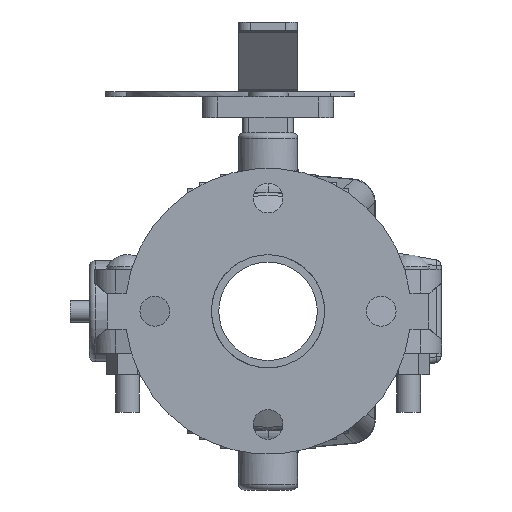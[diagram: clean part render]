
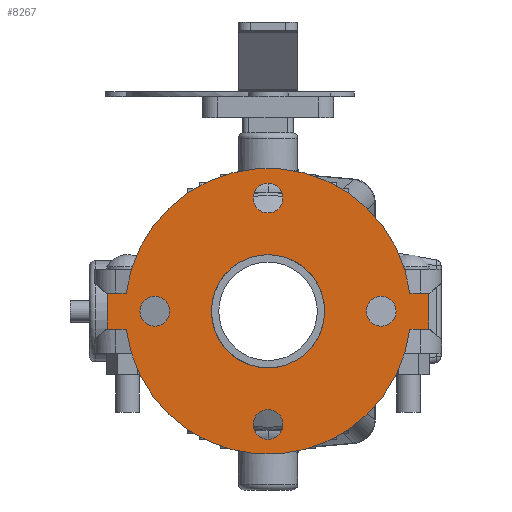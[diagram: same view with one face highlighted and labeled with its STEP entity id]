
A CAD part, front view. The second image highlights one B-rep face of the part: STEP entity #8267.
In plain terms, the highlighted planar face has unit normal (0, -1, 0) as drawn and (0, 0, -1) by its records, which use the part's own axes.
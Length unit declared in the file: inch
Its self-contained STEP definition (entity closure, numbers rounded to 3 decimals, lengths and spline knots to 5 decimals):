
#312=FACE_BOUND('',#1091,.T.);
#313=FACE_BOUND('',#1092,.T.);
#314=FACE_BOUND('',#1093,.T.);
#315=FACE_BOUND('',#1094,.T.);
#316=FACE_BOUND('',#1095,.T.);
#404=PLANE('',#8943);
#627=FACE_OUTER_BOUND('',#1090,.T.);
#1090=EDGE_LOOP('',(#5244,#5245,#5246,#5247,#5248,#5249,#5250,#5251));
#1091=EDGE_LOOP('',(#5252));
#1092=EDGE_LOOP('',(#5253));
#1093=EDGE_LOOP('',(#5254));
#1094=EDGE_LOOP('',(#5255));
#1095=EDGE_LOOP('',(#5256,#5257));
#1645=LINE('',#12442,#2220);
#1646=LINE('',#12444,#2221);
#1647=LINE('',#12446,#2222);
#1648=LINE('',#12450,#2223);
#1649=LINE('',#12452,#2224);
#1650=LINE('',#12453,#2225);
#2220=VECTOR('',#9934,0.3937);
#2221=VECTOR('',#9935,0.3937);
#2222=VECTOR('',#9936,0.3937);
#2223=VECTOR('',#9939,0.3937);
#2224=VECTOR('',#9940,0.3937);
#2225=VECTOR('',#9941,0.3937);
#2792=CIRCLE('',#8933,0.3125);
#2794=CIRCLE('',#8936,0.3125);
#2796=CIRCLE('',#8939,0.3125);
#2798=CIRCLE('',#8942,0.3125);
#2799=CIRCLE('',#8944,3.);
#2800=CIRCLE('',#8945,3.);
#2801=CIRCLE('',#8946,1.1875);
#2802=CIRCLE('',#8947,1.1875);
#3251=VERTEX_POINT('',#12416);
#3253=VERTEX_POINT('',#12422);
#3255=VERTEX_POINT('',#12428);
#3257=VERTEX_POINT('',#12434);
#3258=VERTEX_POINT('',#12438);
#3259=VERTEX_POINT('',#12439);
#3260=VERTEX_POINT('',#12441);
#3261=VERTEX_POINT('',#12443);
#3262=VERTEX_POINT('',#12445);
#3263=VERTEX_POINT('',#12447);
#3264=VERTEX_POINT('',#12449);
#3265=VERTEX_POINT('',#12451);
#3266=VERTEX_POINT('',#12454);
#3267=VERTEX_POINT('',#12455);
#4036=EDGE_CURVE('',#3251,#3251,#2792,.T.);
#4039=EDGE_CURVE('',#3253,#3253,#2794,.T.);
#4042=EDGE_CURVE('',#3255,#3255,#2796,.T.);
#4045=EDGE_CURVE('',#3257,#3257,#2798,.T.);
#4046=EDGE_CURVE('',#3258,#3259,#2799,.T.);
#4047=EDGE_CURVE('',#3259,#3260,#1645,.T.);
#4048=EDGE_CURVE('',#3260,#3261,#1646,.T.);
#4049=EDGE_CURVE('',#3261,#3262,#1647,.T.);
#4050=EDGE_CURVE('',#3262,#3263,#2800,.T.);
#4051=EDGE_CURVE('',#3263,#3264,#1648,.T.);
#4052=EDGE_CURVE('',#3264,#3265,#1649,.T.);
#4053=EDGE_CURVE('',#3265,#3258,#1650,.T.);
#4054=EDGE_CURVE('',#3266,#3267,#2801,.T.);
#4055=EDGE_CURVE('',#3267,#3266,#2802,.T.);
#5244=ORIENTED_EDGE('',*,*,#4046,.T.);
#5245=ORIENTED_EDGE('',*,*,#4047,.T.);
#5246=ORIENTED_EDGE('',*,*,#4048,.T.);
#5247=ORIENTED_EDGE('',*,*,#4049,.T.);
#5248=ORIENTED_EDGE('',*,*,#4050,.T.);
#5249=ORIENTED_EDGE('',*,*,#4051,.T.);
#5250=ORIENTED_EDGE('',*,*,#4052,.T.);
#5251=ORIENTED_EDGE('',*,*,#4053,.T.);
#5252=ORIENTED_EDGE('',*,*,#4036,.T.);
#5253=ORIENTED_EDGE('',*,*,#4039,.T.);
#5254=ORIENTED_EDGE('',*,*,#4042,.T.);
#5255=ORIENTED_EDGE('',*,*,#4045,.T.);
#5256=ORIENTED_EDGE('',*,*,#4054,.T.);
#5257=ORIENTED_EDGE('',*,*,#4055,.T.);
#8267=ADVANCED_FACE('',(#627,#312,#313,#314,#315,#316),#404,.T.);
#8933=AXIS2_PLACEMENT_3D('',#12418,#9907,#9908);
#8936=AXIS2_PLACEMENT_3D('',#12424,#9914,#9915);
#8939=AXIS2_PLACEMENT_3D('',#12430,#9921,#9922);
#8942=AXIS2_PLACEMENT_3D('',#12436,#9928,#9929);
#8943=AXIS2_PLACEMENT_3D('',#12437,#9930,#9931);
#8944=AXIS2_PLACEMENT_3D('',#12440,#9932,#9933);
#8945=AXIS2_PLACEMENT_3D('',#12448,#9937,#9938);
#8946=AXIS2_PLACEMENT_3D('',#12456,#9942,#9943);
#8947=AXIS2_PLACEMENT_3D('',#12457,#9944,#9945);
#9907=DIRECTION('center_axis',(0.,0.,1.));
#9908=DIRECTION('ref_axis',(0.,1.,0.));
#9914=DIRECTION('center_axis',(0.,0.,1.));
#9915=DIRECTION('ref_axis',(1.,0.,0.));
#9921=DIRECTION('center_axis',(0.,0.,1.));
#9922=DIRECTION('ref_axis',(0.,-1.,0.));
#9928=DIRECTION('center_axis',(0.,0.,1.));
#9929=DIRECTION('ref_axis',(-1.,0.,0.));
#9930=DIRECTION('center_axis',(0.,0.,-1.));
#9931=DIRECTION('ref_axis',(-1.,0.,0.));
#9932=DIRECTION('center_axis',(0.,0.,-1.));
#9933=DIRECTION('ref_axis',(-1.,0.,0.));
#9934=DIRECTION('',(0.,1.,0.));
#9935=DIRECTION('',(1.,0.,0.));
#9936=DIRECTION('',(0.,-1.,0.));
#9937=DIRECTION('center_axis',(0.,0.,-1.));
#9938=DIRECTION('ref_axis',(-1.,0.,0.));
#9939=DIRECTION('',(0.,-1.,0.));
#9940=DIRECTION('',(-1.,0.,0.));
#9941=DIRECTION('',(0.,1.,0.));
#9942=DIRECTION('center_axis',(0.,0.,1.));
#9943=DIRECTION('ref_axis',(-1.,0.,0.));
#9944=DIRECTION('center_axis',(0.,0.,1.));
#9945=DIRECTION('ref_axis',(-1.,0.,0.));
#12416=CARTESIAN_POINT('',(0.,2.0625,-0.375));
#12418=CARTESIAN_POINT('Origin',(0.,2.375,-0.375));
#12422=CARTESIAN_POINT('',(2.0625,0.,-0.375));
#12424=CARTESIAN_POINT('Origin',(2.375,0.,-0.375));
#12428=CARTESIAN_POINT('',(0.,-2.0625,-0.375));
#12430=CARTESIAN_POINT('Origin',(0.,-2.375,-0.375));
#12434=CARTESIAN_POINT('',(-2.0625,0.,-0.375));
#12436=CARTESIAN_POINT('Origin',(-2.375,0.,-0.375));
#12437=CARTESIAN_POINT('Origin',(0.,0.,-0.375));
#12438=CARTESIAN_POINT('',(-0.375,-2.97647,-0.375));
#12439=CARTESIAN_POINT('',(-0.375,2.97647,-0.375));
#12440=CARTESIAN_POINT('Origin',(0.,0.,-0.375));
#12441=CARTESIAN_POINT('',(-0.375,3.375,-0.375));
#12442=CARTESIAN_POINT('',(-0.375,-3.375,-0.375));
#12443=CARTESIAN_POINT('',(0.375,3.375,-0.375));
#12444=CARTESIAN_POINT('',(-0.375,3.375,-0.375));
#12445=CARTESIAN_POINT('',(0.375,2.97647,-0.375));
#12446=CARTESIAN_POINT('',(0.375,3.375,-0.375));
#12447=CARTESIAN_POINT('',(0.375,-2.97647,-0.375));
#12448=CARTESIAN_POINT('Origin',(0.,0.,-0.375));
#12449=CARTESIAN_POINT('',(0.375,-3.375,-0.375));
#12450=CARTESIAN_POINT('',(0.375,3.375,-0.375));
#12451=CARTESIAN_POINT('',(-0.375,-3.375,-0.375));
#12452=CARTESIAN_POINT('',(0.375,-3.375,-0.375));
#12453=CARTESIAN_POINT('',(-0.375,-3.375,-0.375));
#12454=CARTESIAN_POINT('',(0.375,1.12673,-0.375));
#12455=CARTESIAN_POINT('',(1.1875,0.,-0.375));
#12456=CARTESIAN_POINT('Origin',(0.,0.,-0.375));
#12457=CARTESIAN_POINT('Origin',(0.,0.,-0.375));
